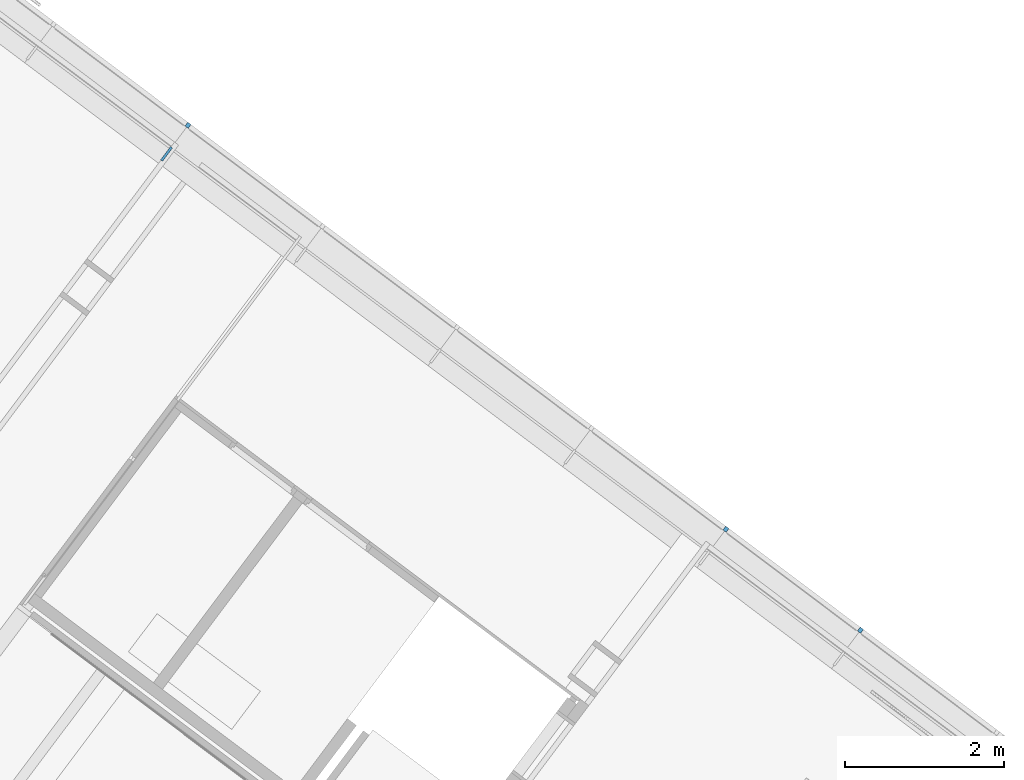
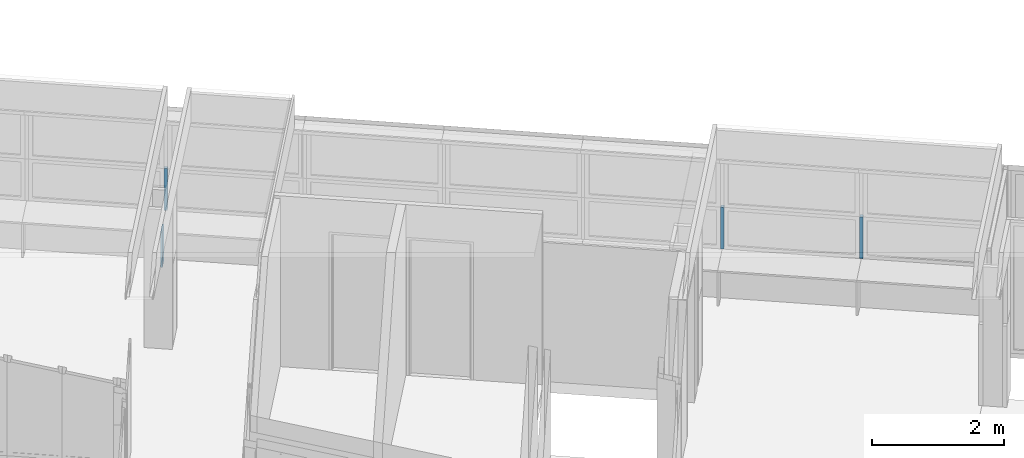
# One storey, part 106 of 243: 4 members, 2 elements without a shape of their own.
"""IFC2X3 building model written with IfcOpenShell, lengths in metres."""

from ifc_helpers import new_model, entity, si_unit, converted_unit, derived_unit, direction, frame, frame_2d, origin, place, context, subcontext, project, spatial, rectangle, extrude, source, transform, mapped, material, type_object, type_shapes, element, aggregate, save


model = new_model("IFC2X3")

# Units and contexts
model_context = context("Model", 3, precision=1e-05, world=origin(), true_north=direction((6.123031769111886e-17, 1.0)))
body_context = subcontext(model_context, "Body", "Model", "MODEL_VIEW")
ifc_project = project(units=[si_unit("LENGTHUNIT", "METRE"), si_unit("AREAUNIT", "SQUARE_METRE"), si_unit("VOLUMEUNIT", "CUBIC_METRE"), converted_unit("PLANEANGLEUNIT", "DEGREE", entity("IfcRatioMeasure", 0.017453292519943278), si_unit("PLANEANGLEUNIT", "RADIAN"), dimensions=[0, 0, 0, 0, 0, 0, 0]), si_unit("MASSUNIT", "GRAM", prefix="KILO"), derived_unit("MASSDENSITYUNIT", [(si_unit("MASSUNIT", "GRAM", prefix="KILO"), 1), (si_unit("LENGTHUNIT", "METRE"), -3)]), derived_unit("IONCONCENTRATIONUNIT", [(si_unit("MASSUNIT", "GRAM", prefix="KILO"), 1), (si_unit("LENGTHUNIT", "METRE"), -3)]), derived_unit("MOMENTOFINERTIAUNIT", [(si_unit("LENGTHUNIT", "METRE"), 4)]), si_unit("TIMEUNIT", "SECOND"), si_unit("FREQUENCYUNIT", "HERTZ"), si_unit("THERMODYNAMICTEMPERATUREUNIT", "DEGREE_CELSIUS"), derived_unit("THERMALTRANSMITTANCEUNIT", [(si_unit("MASSUNIT", "GRAM", prefix="KILO"), 1), (si_unit("THERMODYNAMICTEMPERATUREUNIT", "KELVIN"), -1), (si_unit("TIMEUNIT", "SECOND"), -3)]), derived_unit("THERMALCONDUCTANCEUNIT", [(si_unit("MASSUNIT", "GRAM", prefix="KILO"), 1), (si_unit("THERMODYNAMICTEMPERATUREUNIT", "KELVIN"), -1), (si_unit("TIMEUNIT", "SECOND"), -3), (si_unit("LENGTHUNIT", "METRE"), 1)]), derived_unit("VOLUMETRICFLOWRATEUNIT", [(si_unit("LENGTHUNIT", "METRE"), 3), (si_unit("TIMEUNIT", "SECOND"), -1)]), derived_unit("MASSFLOWRATEUNIT", [(si_unit("MASSUNIT", "GRAM", prefix="KILO"), 1), (si_unit("TIMEUNIT", "SECOND"), -1)]), derived_unit("ROTATIONALFREQUENCYUNIT", [(si_unit("TIMEUNIT", "SECOND"), -1)]), si_unit("ELECTRICCURRENTUNIT", "AMPERE"), si_unit("ELECTRICVOLTAGEUNIT", "VOLT"), si_unit("POWERUNIT", "WATT"), si_unit("FORCEUNIT", "NEWTON", prefix="KILO"), si_unit("ILLUMINANCEUNIT", "LUX"), si_unit("LUMINOUSFLUXUNIT", "LUMEN"), si_unit("LUMINOUSINTENSITYUNIT", "CANDELA"), derived_unit("USERDEFINED", [(si_unit("MASSUNIT", "GRAM", prefix="KILO"), -1), (si_unit("LENGTHUNIT", "METRE"), -2), (si_unit("TIMEUNIT", "SECOND"), 3), (si_unit("LUMINOUSFLUXUNIT", "LUMEN"), 1)]), derived_unit("USERDEFINED", [(si_unit("MASSUNIT", "GRAM", prefix="KILO"), 1), (si_unit("TIMEUNIT", "SECOND"), -3), (si_unit("LENGTHUNIT", "METRE"), 3), (si_unit("ELECTRICCURRENTUNIT", "AMPERE"), -2)]), derived_unit("SOUNDPOWERUNIT", [(si_unit("MASSUNIT", "GRAM", prefix="KILO"), 1), (si_unit("TIMEUNIT", "SECOND"), -3), (si_unit("LENGTHUNIT", "METRE"), 2)]), derived_unit("SOUNDPRESSUREUNIT", [(si_unit("MASSUNIT", "GRAM", prefix="KILO"), 1), (si_unit("LENGTHUNIT", "METRE"), -1), (si_unit("TIMEUNIT", "SECOND"), -2)]), derived_unit("LINEARVELOCITYUNIT", [(si_unit("LENGTHUNIT", "METRE"), 1), (si_unit("TIMEUNIT", "SECOND"), -1)]), si_unit("PRESSUREUNIT", "PASCAL"), derived_unit("USERDEFINED", [(si_unit("MASSUNIT", "GRAM", prefix="KILO"), 1), (si_unit("LENGTHUNIT", "METRE"), -2), (si_unit("TIMEUNIT", "SECOND"), -2)]), derived_unit("LINEARFORCEUNIT", [(si_unit("MASSUNIT", "GRAM", prefix="KILO"), 1), (si_unit("TIMEUNIT", "SECOND"), -2)]), derived_unit("PLANARFORCEUNIT", [(si_unit("MASSUNIT", "GRAM", prefix="KILO"), 1), (si_unit("LENGTHUNIT", "METRE"), -1), (si_unit("TIMEUNIT", "SECOND"), -2)]), derived_unit("SPECIFICHEATCAPACITYUNIT", [(si_unit("THERMODYNAMICTEMPERATUREUNIT", "KELVIN"), -1), (si_unit("LENGTHUNIT", "METRE"), 2), (si_unit("TIMEUNIT", "SECOND"), -2)]), derived_unit("HEATINGVALUEUNIT", [(si_unit("LENGTHUNIT", "METRE"), 2), (si_unit("TIMEUNIT", "SECOND"), -2)]), derived_unit("VAPORPERMEABILITYUNIT", [(si_unit("LENGTHUNIT", "METRE"), -1), (si_unit("TIMEUNIT", "SECOND"), 1)]), derived_unit("DYNAMICVISCOSITYUNIT", [(si_unit("MASSUNIT", "GRAM", prefix="KILO"), 1), (si_unit("TIMEUNIT", "SECOND"), -1), (si_unit("LENGTHUNIT", "METRE"), -1)]), derived_unit("THERMALEXPANSIONCOEFFICIENTUNIT", [(si_unit("THERMODYNAMICTEMPERATUREUNIT", "KELVIN"), -1)]), derived_unit("MODULUSOFELASTICITYUNIT", [(si_unit("MASSUNIT", "GRAM", prefix="KILO"), 1), (si_unit("LENGTHUNIT", "METRE"), -1), (si_unit("TIMEUNIT", "SECOND"), -2)]), derived_unit("ISOTHERMALMOISTURECAPACITYUNIT", [(si_unit("LENGTHUNIT", "METRE"), 3), (si_unit("MASSUNIT", "GRAM", prefix="KILO"), -1)]), derived_unit("MOISTUREDIFFUSIVITYUNIT", [(si_unit("TIMEUNIT", "SECOND"), -1), (si_unit("LENGTHUNIT", "METRE"), 2)])], contexts=[model_context])

# Site, building, storey
site_placement = place(None, frame((0.0, 0.0, 235.0), z_axis=(0.0, 0.0, 1.0), x_axis=(-0.7996477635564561, 0.6004693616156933, 0.0)))
site = spatial("IfcSite", under=ifc_project, at=site_placement, Name="Default", CompositionType="ELEMENT")
building_placement = place(site_placement, origin())
building = spatial("IfcBuilding", under=site, at=building_placement, CompositionType="ELEMENT")
storey_placement = place(building_placement, origin())
storey = spatial("IfcBuildingStorey", under=building, at=storey_placement, Name="P0- Escola", CompositionType="ELEMENT", Elevation=0.0)

# Curtain wall, members
curtain_wall_type_1 = type_object("IfcCurtainWallType", Name="Muro cortina:MC- EXT- MC6", PredefinedType="NOTDEFINED")
curtain_wall_1_placement = place(storey_placement, origin())
curtain_wall_1 = element("IfcCurtainWall", 1, at=curtain_wall_1_placement, inside=storey, type_object=curtain_wall_type_1, Name="Muro cortina:MC- EXT- MC6", ObjectType="Muro cortina:MC- EXT- MC6")
ifc_material_1 = material(Name="_Alumini- T1- Perfil")
member_type_1 = type_object("IfcMemberType", Name="Montante rectangular:MC- Alu- 50x60 cm- Fa pista- Centre", PredefinedType="MULLION", material=ifc_material_1)
shared_shape_1 = source(origin(), body_context, "Body", "SweptSolid", [
    extrude(rectangle(XDim=0.0600000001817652, YDim=0.05, at=frame_2d((8.673617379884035e-18, 0.0), x_axis=(1.0, 0.0))), frame((0.0, -0.030000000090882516, -0.77), z_axis=(0.0, 0.0, 1.0), x_axis=(0.0, -1.0, 0.0)), (0.0, 0.0, 1.0), 0.77),
])
type_shapes(member_type_1, [shared_shape_1])
member_1_placement = place(curtain_wall_1_placement, frame((49.401143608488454, -42.340191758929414, 0.685), z_axis=(0.0, 0.0, -1.0), x_axis=(1.0, 0.0, 0.0)))
member_1 = element("IfcMember", 2, at=member_1_placement, type_object=member_type_1, material=ifc_material_1, Name="Montante rectangular:MC- Alu- 50x60 cm- Fa pista- Centre", ObjectType="Montante rectangular:MC- Alu- 50x60 cm- Fa pista- Centre", context=body_context, shape_type="MappedRepresentation", body=[
    mapped(shared_shape_1, transform((0.0, 0.0, 0.0), scale=1.0)),
])
member_2_placement = place(curtain_wall_1_placement, frame((40.933143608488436, -42.34019175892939, 0.685), z_axis=(0.0, 0.0, -1.0), x_axis=(1.0, 0.0, 0.0)))
member_2 = element("IfcMember", 3, at=member_2_placement, type_object=member_type_1, material=ifc_material_1, Name="Montante rectangular:MC- Alu- 50x60 cm- Fa pista- Centre", ObjectType="Montante rectangular:MC- Alu- 50x60 cm- Fa pista- Centre", context=body_context, shape_type="MappedRepresentation", body=[
    mapped(shared_shape_1, transform((0.0, 0.0, 0.0), scale=1.0)),
])
member_3_placement = place(curtain_wall_1_placement, frame((38.81614360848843, -42.34019175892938, 0.685), z_axis=(0.0, 0.0, -1.0), x_axis=(1.0, 0.0, 0.0)))
member_3 = element("IfcMember", 4, at=member_3_placement, type_object=member_type_1, material=ifc_material_1, Name="Montante rectangular:MC- Alu- 50x60 cm- Fa pista- Centre", ObjectType="Montante rectangular:MC- Alu- 50x60 cm- Fa pista- Centre", context=body_context, shape_type="MappedRepresentation", body=[
    mapped(shared_shape_1, transform((0.0, 0.0, 0.0), scale=1.0)),
])
aggregate(curtain_wall_1, [member_1, member_2, member_3])

# Curtain wall, member
curtain_wall_type_2 = type_object("IfcCurtainWallType", PredefinedType="NOTDEFINED")
curtain_wall_2_placement = place(storey_placement, origin())
curtain_wall_2 = element("IfcCurtainWall", 5, at=curtain_wall_2_placement, inside=storey, type_object=curtain_wall_type_2)
ifc_material_2 = material(Name="_Fusta massisa- T1")
member_type_2 = type_object("IfcMemberType", Name="Montante rectangular:MC- Fusta- 34x3 cm- Fa Pista- Pota taula", PredefinedType="MULLION", material=ifc_material_2)
shared_shape_2 = source(origin(), body_context, "Body", "SweptSolid", [
    extrude(rectangle(XDim=0.21000000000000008, YDim=0.03000000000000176, at=frame_2d((1.3877787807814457e-17, 1.717376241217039e-16), x_axis=(1.0, 0.0))), frame((0.0, -0.1700000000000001, -0.655000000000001), z_axis=(0.0, 0.0, 1.0), x_axis=(0.0, -1.0, 0.0)), (0.0, 0.0, 1.0), 0.655000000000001),
])
type_shapes(member_type_2, [shared_shape_2])
member_4_placement = place(curtain_wall_2_placement, frame((49.40114360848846, -42.03019175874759, 0.0), z_axis=(0.0, 0.0, -1.0), x_axis=(1.0, 0.0, 0.0)))
member_4 = element("IfcMember", 6, at=member_4_placement, type_object=member_type_2, material=ifc_material_2, Name="Montante rectangular:MC- Fusta- 34x3 cm- Fa Pista- Pota taula", ObjectType="Montante rectangular:MC- Fusta- 34x3 cm- Fa Pista- Pota taula", context=body_context, shape_type="MappedRepresentation", body=[
    mapped(shared_shape_2, transform((0.0, 0.0, 0.0), scale=1.0)),
])
aggregate(curtain_wall_2, [member_4])

save(model, "model.ifc")
